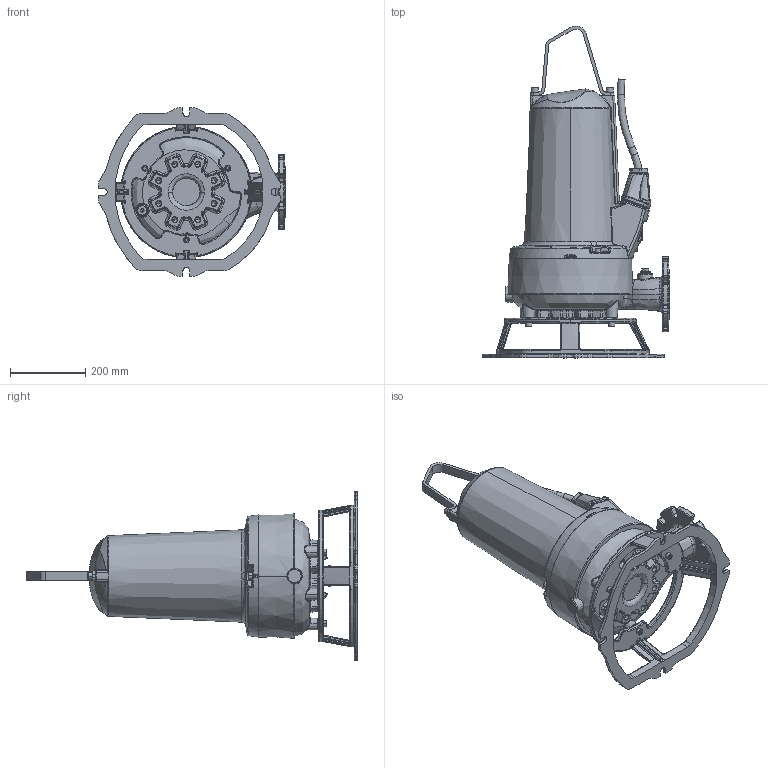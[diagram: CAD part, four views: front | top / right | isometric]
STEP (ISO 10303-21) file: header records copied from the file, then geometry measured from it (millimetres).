
FILE_DESCRIPTION (( 'STEP AP214' ), '1' );
FILE_NAME ('XFP81E-VX - Transportable[NEW].STEP', '2017-08-10T07:20:03', ( '' ), ( '' ), 'SwSTEP 2.0', 'SolidWorks 2017', '' );
FILE_SCHEMA (( 'AUTOMOTIVE_DESIGN' ));
Length unit declared in the file: inch
Products named in the file (1): XFP81E-VX - Transportable[NEW]
Bounding box: 500 x 884.43 x 450 mm (x, y, z)
Volume: 34455597.3 mm3; surface area: 1135957.9 mm2
Topology: 3 solids, 20 shells, 2615 faces, 6245 edges, 3528 vertices
Faces by surface type: bspline 1276, cylinder 801, plane 415, cone 123
Entity records: 170664 total; most frequent: CARTESIAN_POINT 86515, ORIENTED_EDGE 12034, DIRECTION 8249, EDGE_CURVE 6017, VERTEX_POINT 3528, AXIS2_PLACEMENT_3D 3273, EDGE_LOOP 2731, UNCERTAINTY_MEASURE_WITH_UNIT 2620
